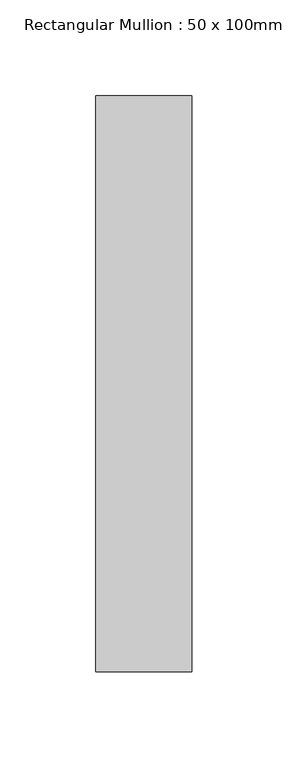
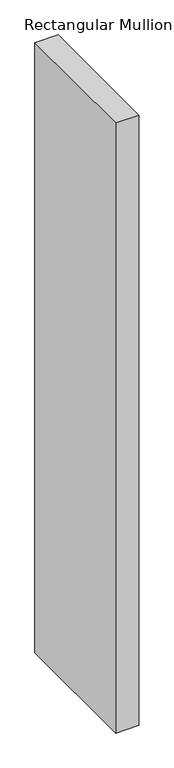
"""IFC4 building model written with IfcOpenShell, lengths in millimetres: member geometry, Rectangular Mullion : 50 x 100mm."""

from ifc_helpers import new_model, si_unit, frame, origin, place, context, project, spatial, polyline, outline, extrude, source, transform, mapped, element, save


def rectangular_mullion_50_x_100mm_168a4457(model_context):
    return source(origin(), model_context, "Body", "SweptSolid", [
        extrude(outline(polyline([(25.0, 175.0), (25.0, -125.0), (-25.0, -125.0), (-25.0, 175.0), (25.0, 175.0)])), frame((0.0, 0.0, -1386.0217088), z_axis=(0.0, 0.0, 1.0), x_axis=(1.0, 0.0, 0.0)), (0.0, 0.0, 1.0), 1386.0217088),
    ])


if __name__ == "__main__":
    model = new_model("IFC4")
    model_context = context("Model", 3, world=origin())
    ifc_project = project(units=[si_unit("LENGTHUNIT", "METRE", prefix="MILLI")], contexts=[model_context])
    site = spatial("IfcSite", under=ifc_project)
    building = spatial("IfcBuilding", under=site)
    placement = place(None, origin())
    rectangular_mullion_50_x_100mm_shape = rectangular_mullion_50_x_100mm_168a4457(model_context)
    element("IfcMember", 1, ObjectType="Rectangular Mullion : 50 x 100mm", at=placement, inside=building, context=model_context, shape_type="MappedRepresentation", body=[
        mapped(rectangular_mullion_50_x_100mm_shape, transform((0.0, 0.0, 0.0), x_axis=(1.0, 0.0, 0.0), y_axis=(0.0, 1.0, 0.0), z_axis=(0.0, 0.0, 1.0))),
    ])
    save(model, "model.ifc")
